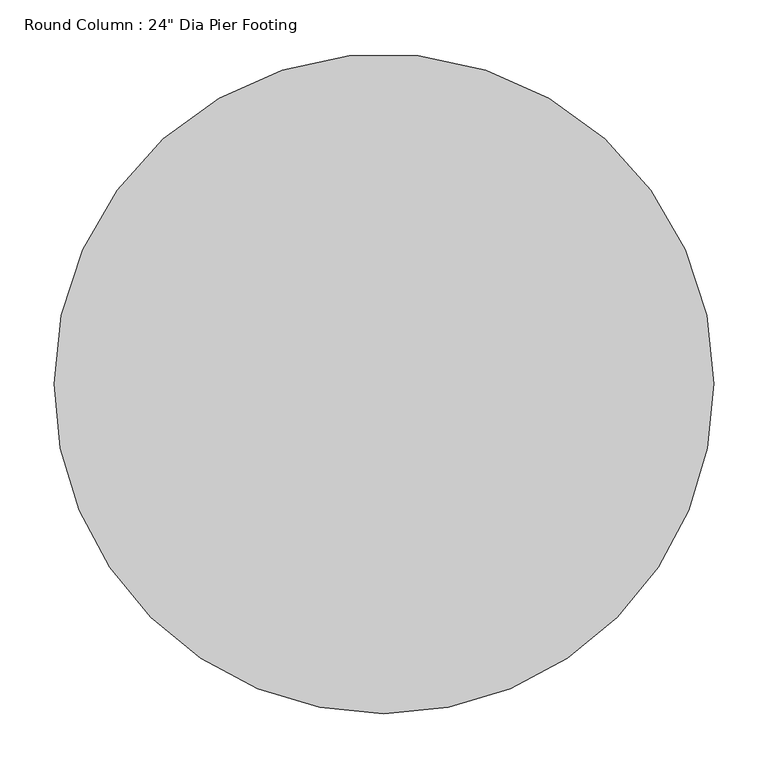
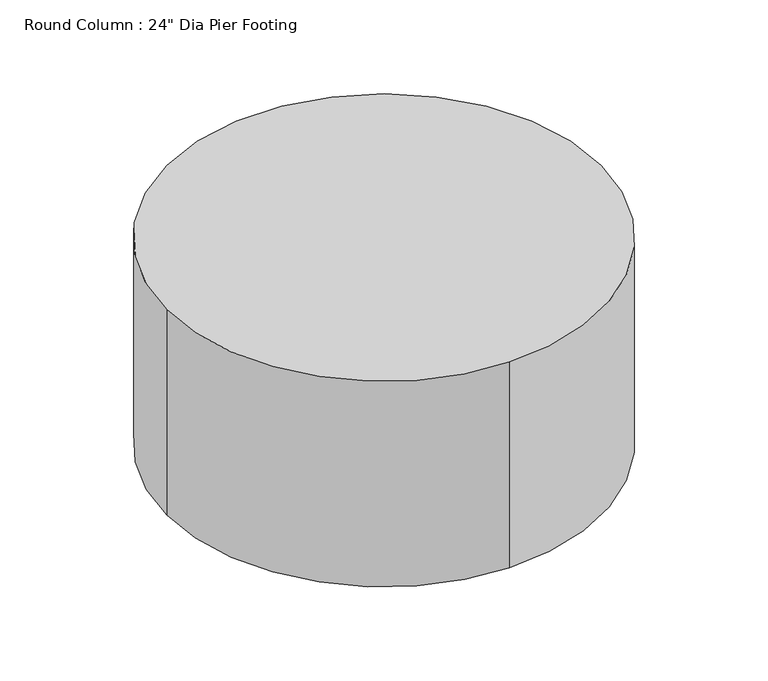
"""IFC4 building model written with IfcOpenShell, lengths in millimetres: column geometry."""

import ifcopenshell
import ifcopenshell.guid

model = None  # the IFC model being written
_history = None  # IfcOwnerHistory: only IFC2X3 demands one
_inside = {}  # id of a spatial element -> (the spatial element, [elements in it])
_under = {}  # id of a project, library or spatial element -> (it, [spatial elements below it])
_declared = {}  # id of a project -> (the project, [libraries it declares])
_typed = {}  # id of a type object -> (the type object, [elements of that type])
_made_of = {}  # id of a material, layer set ... -> (it, [elements and type objects made of it])


def new_model(schema):
    """Start an empty IFC model of exactly this schema.

    Asked for "IFC4X3", IfcOpenShell would pick the latest addendum, in which some entities
    have other attributes; the version numbers below select the first issue.
    IFC2X3 requires an IfcOwnerHistory on every rooted entity: one is made here for all.
    """
    global model, _history
    if schema == "IFC4X3":
        model = ifcopenshell.file(schema_version=(4, 3, 0, 0))
    else:
        model = ifcopenshell.file(schema=schema)
    _inside.clear()
    _under.clear()
    _declared.clear()
    _typed.clear()
    _made_of.clear()
    _history = None
    if model.schema == "IFC2X3":
        org = make("IfcOrganization", Name="unknown")
        user = make(
            "IfcPersonAndOrganization",
            ThePerson=make("IfcPerson", FamilyName="unknown"),
            TheOrganization=org,
        )
        app = make(
            "IfcApplication",
            ApplicationDeveloper=org,
            Version="unknown",
            ApplicationFullName="unknown",
            ApplicationIdentifier="unknown",
        )
        _history = make(
            "IfcOwnerHistory",
            OwningUser=user,
            OwningApplication=app,
            ChangeAction="ADDED",
            CreationDate=0,
        )
    return model


def make(cls, **values):
    """One entity of the class cls with the attributes given. An attribute that is None is left unset."""
    return model.create_entity(
        cls, **{name: value for name, value in values.items() if value is not None}
    )


def rooted(cls, **values):
    """An entity with a GlobalId (a new one), such as an element, a storey or a relation."""
    return make(cls, GlobalId=ifcopenshell.guid.new(), OwnerHistory=_history, **values)


def si_unit(unit_type, name, prefix=None):
    """IfcSIUnit, for example si_unit("LENGTHUNIT", "METRE", prefix="MILLI")."""
    return make("IfcSIUnit", UnitType=unit_type, Prefix=prefix, Name=name)


def assignment(units):
    """IfcUnitAssignment: the units of a project."""
    return None if units is None else make("IfcUnitAssignment", Units=units)


def point(xyz):
    """IfcCartesianPoint."""
    return None if xyz is None else make("IfcCartesianPoint", Coordinates=xyz)


def direction(xyz):
    """IfcDirection."""
    return None if xyz is None else make("IfcDirection", DirectionRatios=xyz)


def frame(location, z_axis=None, x_axis=None):
    """IfcAxis2Placement3D, a coordinate frame: its origin and axes. An axis left out is left unset."""
    return make(
        "IfcAxis2Placement3D",
        Location=point(location),
        Axis=direction(z_axis),
        RefDirection=direction(x_axis),
    )


def frame_2d(location, x_axis=None):
    """IfcAxis2Placement2D, a coordinate frame in the plane: its origin and x axis."""
    return make(
        "IfcAxis2Placement2D", Location=point(location), RefDirection=direction(x_axis)
    )


def origin():
    """The frame at (0, 0, 0) with its axes left unset."""
    return frame((0.0, 0.0, 0.0))


def origin_2d():
    """The frame at (0, 0) in the plane with its x axis left unset."""
    return frame_2d((0.0, 0.0))


def place(relative_to, where):
    """IfcLocalPlacement: puts the frame where relative to a parent placement (None: the world)."""
    return make(
        "IfcLocalPlacement", PlacementRelTo=relative_to, RelativePlacement=where
    )


def context(
    kind, dimensions, precision=None, world=None, true_north=None, identifier=None
):
    """IfcGeometricRepresentationContext, for example the 3D "Model" context."""
    return make(
        "IfcGeometricRepresentationContext",
        ContextIdentifier=identifier,
        ContextType=kind,
        CoordinateSpaceDimension=dimensions,
        Precision=precision,
        WorldCoordinateSystem=world,
        TrueNorth=true_north,
    )


def project(units=None, contexts=None):
    """IfcProject with its units and contexts."""
    return rooted(
        "IfcProject",
        Name="project",
        RepresentationContexts=contexts,
        UnitsInContext=assignment(units),
    )


def spatial(cls, under=None, at=None, **own):
    """A site, building, storey or space (cls), placed at a placement, below another one or the project."""
    s = rooted(cls, ObjectPlacement=at, **own)
    if under is not None:
        _under.setdefault(under.id(), (under, []))[1].append(s)
    return s


def circle_curve(where, radius):
    """IfcCircle in the frame where."""
    return make("IfcCircle", Position=where, Radius=radius)


def trimmed(basis, trim1, trim2, sense, master):
    """IfcTrimmedCurve: the piece of a basis curve between two trims."""
    return make(
        "IfcTrimmedCurve",
        BasisCurve=basis,
        Trim1=trim1,
        Trim2=trim2,
        SenseAgreement=sense,
        MasterRepresentation=master,
    )


def segment(curve, same_sense, transition):
    """IfcCompositeCurveSegment."""
    return make(
        "IfcCompositeCurveSegment",
        Transition=transition,
        SameSense=same_sense,
        ParentCurve=curve,
    )


def composite_curve(segments, self_intersect=None):
    """IfcCompositeCurve: segments joined end to end."""
    return make("IfcCompositeCurve", Segments=segments, SelfIntersect=self_intersect)


def outline(outer, holes=None, kind="AREA"):
    """IfcArbitraryClosedProfileDef: a profile drawn as a closed curve; with holes, ...WithVoids."""
    if holes is None:
        return make("IfcArbitraryClosedProfileDef", ProfileType=kind, OuterCurve=outer)
    return make(
        "IfcArbitraryProfileDefWithVoids",
        ProfileType=kind,
        OuterCurve=outer,
        InnerCurves=holes,
    )


def extrude(swept, where, along, depth):
    """IfcExtrudedAreaSolid: the profile swept, set in the frame where, extruded along a direction by depth."""
    return make(
        "IfcExtrudedAreaSolid",
        SweptArea=swept,
        Position=where,
        ExtrudedDirection=direction(along),
        Depth=depth,
    )


def shape(context_of_items, identifier, shape_type, items):
    """IfcShapeRepresentation: the items that make up one representation, for example the "Body"."""
    return make(
        "IfcShapeRepresentation",
        ContextOfItems=context_of_items,
        RepresentationIdentifier=identifier,
        RepresentationType=shape_type,
        Items=items,
    )


def source(mapping_origin, context_of_items, identifier, shape_type, items):
    """IfcRepresentationMap: a shape defined once, which mapped items show again and again."""
    return make(
        "IfcRepresentationMap",
        MappingOrigin=mapping_origin,
        MappedRepresentation=shape(context_of_items, identifier, shape_type, items),
    )


def transform(
    local_origin,
    x_axis=None,
    y_axis=None,
    z_axis=None,
    scale=None,
    scale2=None,
    scale3=None,
    uniform=True,
):
    """IfcCartesianTransformationOperator3D, or its non-uniform kind. x_axis, y_axis, z_axis: its Axis1, 2, 3."""
    if uniform:
        return make(
            "IfcCartesianTransformationOperator3D",
            Axis1=direction(x_axis),
            Axis2=direction(y_axis),
            LocalOrigin=point(local_origin),
            Scale=scale,
            Axis3=direction(z_axis),
        )
    return make(
        "IfcCartesianTransformationOperator3DnonUniform",
        Axis1=direction(x_axis),
        Axis2=direction(y_axis),
        LocalOrigin=point(local_origin),
        Scale=scale,
        Axis3=direction(z_axis),
        Scale2=scale2,
        Scale3=scale3,
    )


def mapped(mapping_source, mapping_target):
    """IfcMappedItem: shows the shape of a source again, moved by a transform."""
    return make(
        "IfcMappedItem", MappingSource=mapping_source, MappingTarget=mapping_target
    )


def made_of(thing, what):
    """Note that an element or type object is made of a material, layer set ...; save() writes the relation."""
    if what is not None:
        _made_of.setdefault(what.id(), (what, []))[1].append(thing)
    return thing


def element(
    cls,
    number,
    at=None,
    inside=None,
    cuts=None,
    type_object=None,
    material=None,
    context=None,
    identifier="Body",
    shape_type=None,
    held_by="IfcProductDefinitionShape",
    body=None,
    shapes=None,
    **own,
):
    """One element of the class cls, such as IfcWall. Its Tag is "e" and its number.

    at: its placement. inside: the storey or other place that contains it. cuts: it is an
    opening in that element (IfcRelVoidsElement). A single representation is given by context,
    identifier, shape_type and body (its items); several are given by shapes. held_by: the class
    of the entity that holds the representations. save() writes the other relations.
    """
    e = rooted(cls, Tag="e%d" % number, ObjectPlacement=at, **own)
    if body is not None:
        shapes = [shape(context, identifier, shape_type, body)]
    if shapes is not None:
        e.Representation = make(held_by, Representations=shapes)
    if inside is not None:
        _inside.setdefault(inside.id(), (inside, []))[1].append(e)
    if cuts is not None:
        rooted(
            "IfcRelVoidsElement", RelatingBuildingElement=cuts, RelatedOpeningElement=e
        )
    if type_object is not None:
        _typed.setdefault(type_object.id(), (type_object, []))[1].append(e)
    return made_of(e, material)


def aggregate(whole, parts):
    """IfcRelAggregates: a whole, such as a stair, and the parts it consists of."""
    return rooted("IfcRelAggregates", RelatingObject=whole, RelatedObjects=parts)


def save(model, path):
    """Write the relations noted so far, then the file.

    IfcRelAggregates (storeys below a building ...), IfcRelContainedInSpatialStructure (elements
    in a storey), IfcRelDefinesByType, IfcRelAssociatesMaterial and IfcRelDeclares: one each for
    every whole, place, type object, material and project.
    """
    for whole, parts in _under.values():
        aggregate(whole, parts)
    for where, things in _inside.values():
        rooted(
            "IfcRelContainedInSpatialStructure",
            RelatedElements=things,
            RelatingStructure=where,
        )
    for kind, things in _typed.values():
        rooted("IfcRelDefinesByType", RelatedObjects=things, RelatingType=kind)
    for what, things in _made_of.values():
        rooted("IfcRelAssociatesMaterial", RelatedObjects=things, RelatingMaterial=what)
    for by, libraries in _declared.values():
        rooted("IfcRelDeclares", RelatingContext=by, RelatedDefinitions=libraries)
    model.write(path)


def column_67824fff(model_context):
    return source(origin(), model_context, "Body", "SweptSolid", [
        extrude(outline(composite_curve([segment(trimmed(circle_curve(origin_2d(), 304.8), [point((304.8, 0.0))], [point((0.0, -304.8))], False, "CARTESIAN"), True, "CONTINUOUS"), segment(trimmed(circle_curve(origin_2d(), 304.8), [point((0.0, -304.8))], [point((-304.8, 0.0))], False, "CARTESIAN"), True, "CONTINUOUS"), segment(trimmed(circle_curve(origin_2d(), 304.8), [point((-304.8, 0.0))], [point((304.8, 0.0))], False, "CARTESIAN"), True, "CONTINUOUS")], self_intersect=False)), frame((0.0, 0.0, 290080.7), z_axis=(0.0, 0.0, 1.0), x_axis=(1.0, 0.0, 0.0)), (0.0, 0.0, 1.0), 304.8),
    ])


if __name__ == "__main__":
    model = new_model("IFC4")
    model_context = context("Model", 3, world=origin())
    ifc_project = project(units=[si_unit("LENGTHUNIT", "METRE", prefix="MILLI")], contexts=[model_context])
    site = spatial("IfcSite", under=ifc_project)
    building = spatial("IfcBuilding", under=site)
    placement = place(None, origin())
    column_shape = column_67824fff(model_context)
    element("IfcColumn", 1, ObjectType="Round Column : 24\" Dia Pier Footing", at=placement, inside=building, context=model_context, shape_type="MappedRepresentation", body=[
        mapped(column_shape, transform((0.0, 0.0, 0.0), x_axis=(1.0, 0.0, 0.0), y_axis=(0.0, 1.0, 0.0), z_axis=(0.0, 0.0, 1.0))),
    ])
    save(model, "model.ifc")
